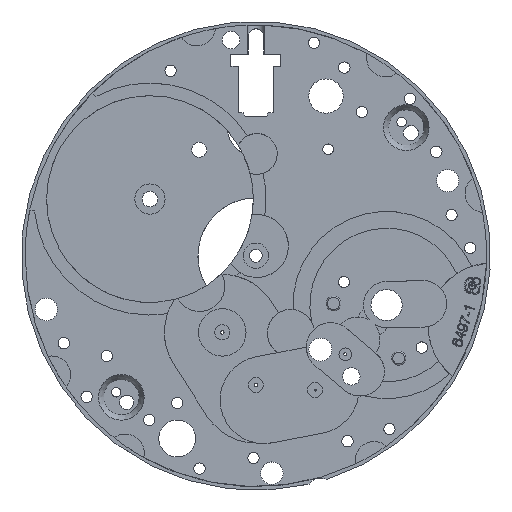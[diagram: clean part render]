
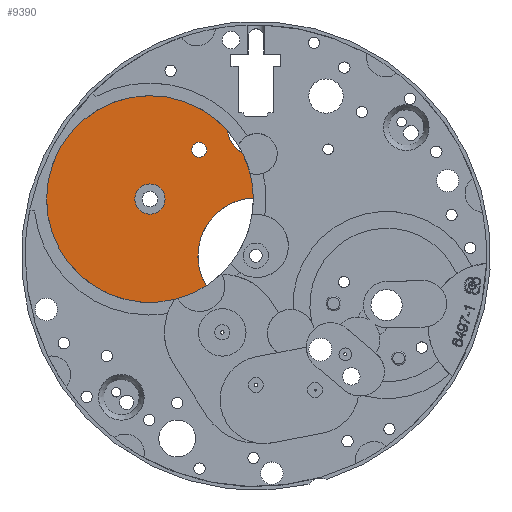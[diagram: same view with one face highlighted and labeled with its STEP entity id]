
A CAD part, top view. The second image highlights one B-rep face of the part: STEP entity #9390.
In plain terms, the highlighted planar face has unit normal (0, 0, 1).
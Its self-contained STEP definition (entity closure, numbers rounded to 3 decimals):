
#723=FACE_BOUND('',#1705,.T.);
#724=FACE_BOUND('',#1706,.T.);
#864=PLANE('',#10343);
#1196=FACE_OUTER_BOUND('',#1704,.T.);
#1704=EDGE_LOOP('',(#7387,#7388,#7389,#7390,#7391));
#1705=EDGE_LOOP('',(#7392,#7393));
#1706=EDGE_LOOP('',(#7394,#7395));
#3617=CIRCLE('',#9999,6.96);
#3620=CIRCLE('',#10002,6.96);
#3672=CIRCLE('',#10069,13.12);
#3680=CIRCLE('',#10078,3.488);
#3681=CIRCLE('',#10079,3.488);
#3718=CIRCLE('',#10126,47.56);
#3727=CIRCLE('',#10135,47.56);
#3729=CIRCLE('',#10137,47.56);
#3882=CIRCLE('',#10344,26.68);
#4259=VERTEX_POINT('',#14095);
#4260=VERTEX_POINT('',#14096);
#4331=VERTEX_POINT('',#14265);
#4332=VERTEX_POINT('',#14267);
#4340=VERTEX_POINT('',#14287);
#4341=VERTEX_POINT('',#14289);
#4376=VERTEX_POINT('',#14381);
#4377=VERTEX_POINT('',#14382);
#4381=VERTEX_POINT('',#14399);
#5260=EDGE_CURVE('',#4259,#4260,#3617,.T.);
#5264=EDGE_CURVE('',#4260,#4259,#3620,.T.);
#5344=EDGE_CURVE('',#4332,#4331,#3672,.T.);
#5356=EDGE_CURVE('',#4341,#4340,#3680,.T.);
#5357=EDGE_CURVE('',#4340,#4341,#3681,.T.);
#5403=EDGE_CURVE('',#4376,#4377,#3718,.T.);
#5414=EDGE_CURVE('',#4377,#4331,#3727,.T.);
#5416=EDGE_CURVE('',#4332,#4381,#3729,.T.);
#5758=EDGE_CURVE('',#4376,#4381,#3882,.T.);
#7387=ORIENTED_EDGE('',*,*,#5758,.T.);
#7388=ORIENTED_EDGE('',*,*,#5416,.F.);
#7389=ORIENTED_EDGE('',*,*,#5344,.T.);
#7390=ORIENTED_EDGE('',*,*,#5414,.F.);
#7391=ORIENTED_EDGE('',*,*,#5403,.F.);
#7392=ORIENTED_EDGE('',*,*,#5356,.T.);
#7393=ORIENTED_EDGE('',*,*,#5357,.T.);
#7394=ORIENTED_EDGE('',*,*,#5260,.F.);
#7395=ORIENTED_EDGE('',*,*,#5264,.F.);
#9390=ADVANCED_FACE('',(#1196,#723,#724),#864,.T.);
#9999=AXIS2_PLACEMENT_3D('',#14097,#11347,#11348);
#10002=AXIS2_PLACEMENT_3D('',#14103,#11354,#11355);
#10069=AXIS2_PLACEMENT_3D('',#14268,#11516,#11517);
#10078=AXIS2_PLACEMENT_3D('',#14290,#11538,#11539);
#10079=AXIS2_PLACEMENT_3D('',#14291,#11540,#11541);
#10126=AXIS2_PLACEMENT_3D('',#14383,#11643,#11644);
#10135=AXIS2_PLACEMENT_3D('',#14397,#11663,#11664);
#10137=AXIS2_PLACEMENT_3D('',#14400,#11667,#11668);
#10343=AXIS2_PLACEMENT_3D('',#15229,#12248,#12249);
#10344=AXIS2_PLACEMENT_3D('',#15230,#12250,#12251);
#11347=DIRECTION('center_axis',(0.,0.,1.));
#11348=DIRECTION('ref_axis',(1.,0.,0.));
#11354=DIRECTION('center_axis',(0.,0.,1.));
#11355=DIRECTION('ref_axis',(1.,0.,0.));
#11516=DIRECTION('center_axis',(0.,0.,-1.));
#11517=DIRECTION('ref_axis',(1.,0.,0.));
#11538=DIRECTION('center_axis',(0.,0.,-1.));
#11539=DIRECTION('ref_axis',(1.,0.,0.));
#11540=DIRECTION('center_axis',(0.,0.,-1.));
#11541=DIRECTION('ref_axis',(1.,0.,0.));
#11643=DIRECTION('center_axis',(0.,0.,-1.));
#11644=DIRECTION('ref_axis',(1.,0.,0.));
#11663=DIRECTION('center_axis',(0.,0.,-1.));
#11664=DIRECTION('ref_axis',(1.,0.,0.));
#11667=DIRECTION('center_axis',(0.,0.,-1.));
#11668=DIRECTION('ref_axis',(1.,0.,0.));
#12248=DIRECTION('center_axis',(0.,0.,1.));
#12249=DIRECTION('ref_axis',(1.,0.,0.));
#12250=DIRECTION('center_axis',(0.,0.,-1.));
#12251=DIRECTION('ref_axis',(1.,0.,0.));
#14095=CARTESIAN_POINT('',(-55.68,26.1,-9.57));
#14096=CARTESIAN_POINT('',(-41.76,26.1,-9.57));
#14097=CARTESIAN_POINT('Origin',(-48.72,26.1,-9.57));
#14103=CARTESIAN_POINT('Origin',(-48.72,26.1,-9.57));
#14265=CARTESIAN_POINT('',(-13.049,57.557,-9.57));
#14267=CARTESIAN_POINT('',(-6.169,47.344,-9.57));
#14268=CARTESIAN_POINT('Origin',(0.,58.924,-9.57));
#14287=CARTESIAN_POINT('',(-29.565,48.745,-9.57));
#14289=CARTESIAN_POINT('',(-22.589,48.745,-9.57));
#14290=CARTESIAN_POINT('Origin',(-26.077,48.745,-9.57));
#14291=CARTESIAN_POINT('Origin',(-26.077,48.745,-9.57));
#14381=CARTESIAN_POINT('',(-22.835,-13.799,-9.57));
#14382=CARTESIAN_POINT('',(-96.28,26.1,-9.57));
#14383=CARTESIAN_POINT('Origin',(-48.72,26.1,-9.57));
#14397=CARTESIAN_POINT('Origin',(-48.72,26.1,-9.57));
#14399=CARTESIAN_POINT('',(-1.163,26.655,-9.57));
#14400=CARTESIAN_POINT('Origin',(-48.72,26.1,-9.57));
#15229=CARTESIAN_POINT('Origin',(14.722,-53.999,-9.57));
#15230=CARTESIAN_POINT('Origin',(0.,0.,-9.57));
